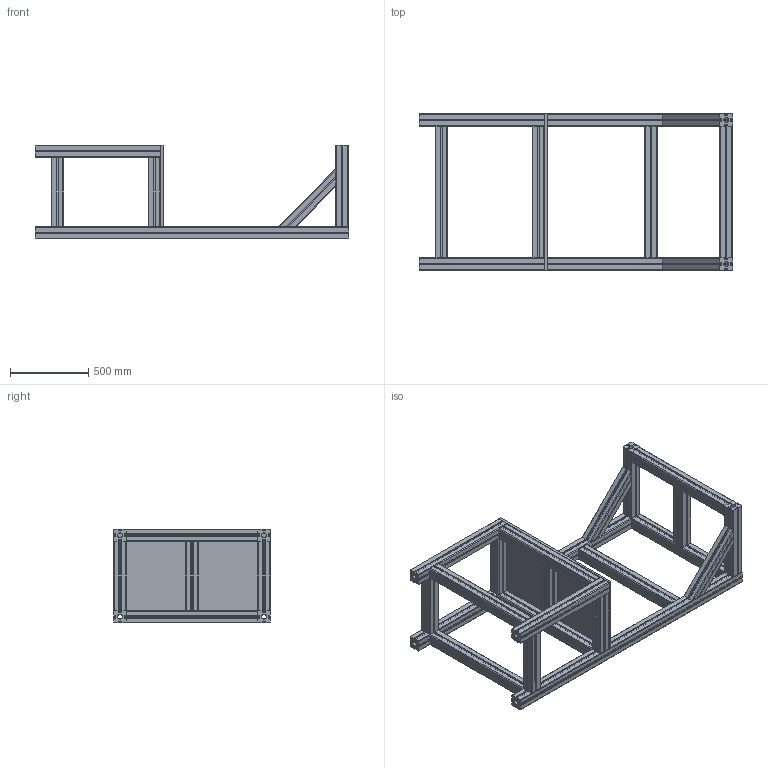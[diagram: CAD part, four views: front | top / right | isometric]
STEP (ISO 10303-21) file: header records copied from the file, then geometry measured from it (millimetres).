
FILE_DESCRIPTION(('CATIA V5 STEP Exchange'),'2;1');
FILE_NAME('C:\Users\Administrator\Desktop\汕德卡换档扶手\棘轮组装夹具\GZT.stp','2022-03-10T07:44:59+00:00',('none'),('none'),'CATIA Version 5 Release 20 GA (IN-10)','CATIA V5 STEP AP203','none');
FILE_SCHEMA(('CONFIG_CONTROL_DESIGN'));
Length unit declared in the file: millimetre
Products named in the file (1): ZZJJ-0
Assembly tree (22 placements, depth 2):
  ZZJJ-0
    #58
    #360  x2
    #1723  x2
    #3086  x7
    #4524  x6
    #5932  x2
    #7310  x2
Bounding box: 2000 x 1000 x 600 mm (x, y, z)
Volume: 89132311.6 mm3; surface area: 10978918.5 mm2
Topology: 22 solids, 22 shells, 934 faces, 2670 edges, 1780 vertices
Faces by surface type: plane 892, cylinder 42
Entity records: 8712 total; most frequent: CARTESIAN_POINT 1621, ORIENTED_EDGE 1560, DIRECTION 1204, EDGE_CURVE 780, VECTOR 754, LINE 754, VERTEX_POINT 520, EDGE_LOOP 286
